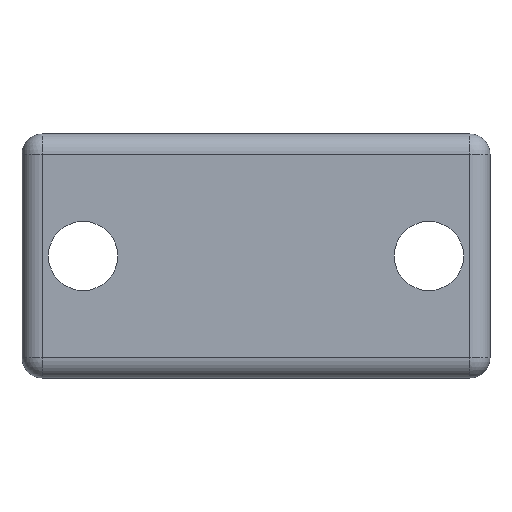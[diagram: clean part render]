
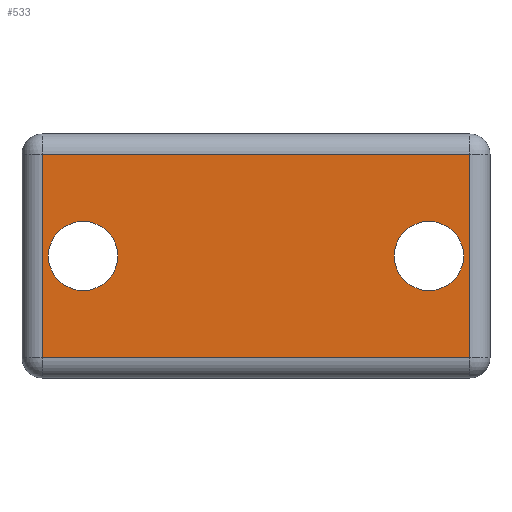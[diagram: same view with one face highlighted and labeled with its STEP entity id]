
A CAD part, front view. The second image highlights one B-rep face of the part: STEP entity #533.
In plain terms, the highlighted planar face has unit normal (0, -1, 0).
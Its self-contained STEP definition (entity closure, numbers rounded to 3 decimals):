
#44 = CYLINDRICAL_SURFACE('',#45,1.);
#45 = AXIS2_PLACEMENT_3D('',#46,#47,#48);
#46 = CARTESIAN_POINT('',(-10.5,7.,-6.));
#47 = DIRECTION('',(0.,0.,1.));
#48 = DIRECTION('',(-1.,-0.,0.));
#143 = VERTEX_POINT('',#144);
#144 = CARTESIAN_POINT('',(-10.5,6.,-5.));
#171 = EDGE_CURVE('',#143,#172,#174,.T.);
#172 = VERTEX_POINT('',#173);
#173 = CARTESIAN_POINT('',(-10.5,6.,5.));
#174 = SURFACE_CURVE('',#175,(#179,#186),.PCURVE_S1.);
#175 = LINE('',#176,#177);
#176 = CARTESIAN_POINT('',(-10.5,6.,-6.));
#177 = VECTOR('',#178,1.);
#178 = DIRECTION('',(0.,0.,1.));
#179 = PCURVE('',#44,#180);
#180 = DEFINITIONAL_REPRESENTATION('',(#181),#185);
#181 = LINE('',#182,#183);
#182 = CARTESIAN_POINT('',(1.571,0.));
#183 = VECTOR('',#184,1.);
#184 = DIRECTION('',(0.,1.));
#185 = ( GEOMETRIC_REPRESENTATION_CONTEXT(2) 
PARAMETRIC_REPRESENTATION_CONTEXT() REPRESENTATION_CONTEXT('2D SPACE',''
  ) );
#186 = PCURVE('',#187,#192);
#187 = PLANE('',#188);
#188 = AXIS2_PLACEMENT_3D('',#189,#190,#191);
#189 = CARTESIAN_POINT('',(-11.5,6.,-6.));
#190 = DIRECTION('',(0.,1.,0.));
#191 = DIRECTION('',(0.,0.,1.));
#192 = DEFINITIONAL_REPRESENTATION('',(#193),#197);
#193 = LINE('',#194,#195);
#194 = CARTESIAN_POINT('',(0.,1.));
#195 = VECTOR('',#196,1.);
#196 = DIRECTION('',(1.,0.));
#197 = ( GEOMETRIC_REPRESENTATION_CONTEXT(2) 
PARAMETRIC_REPRESENTATION_CONTEXT() REPRESENTATION_CONTEXT('2D SPACE',''
  ) );
#489 = CYLINDRICAL_SURFACE('',#490,1.);
#490 = AXIS2_PLACEMENT_3D('',#491,#492,#493);
#491 = CARTESIAN_POINT('',(-11.5,7.,-5.));
#492 = DIRECTION('',(1.,0.,0.));
#493 = DIRECTION('',(0.,-1.,0.));
#521 = CYLINDRICAL_SURFACE('',#522,1.);
#522 = AXIS2_PLACEMENT_3D('',#523,#524,#525);
#523 = CARTESIAN_POINT('',(-11.5,7.,5.));
#524 = DIRECTION('',(1.,0.,0.));
#525 = DIRECTION('',(0.,-1.,0.));
#533 = ADVANCED_FACE('',(#534,#609,#640),#187,.F.);
#534 = FACE_BOUND('',#535,.F.);
#535 = EDGE_LOOP('',(#536,#537,#560,#588));
#536 = ORIENTED_EDGE('',*,*,#171,.T.);
#537 = ORIENTED_EDGE('',*,*,#538,.T.);
#538 = EDGE_CURVE('',#172,#539,#541,.T.);
#539 = VERTEX_POINT('',#540);
#540 = CARTESIAN_POINT('',(10.5,6.,5.));
#541 = SURFACE_CURVE('',#542,(#546,#553),.PCURVE_S1.);
#542 = LINE('',#543,#544);
#543 = CARTESIAN_POINT('',(-11.5,6.,5.));
#544 = VECTOR('',#545,1.);
#545 = DIRECTION('',(1.,0.,0.));
#546 = PCURVE('',#187,#547);
#547 = DEFINITIONAL_REPRESENTATION('',(#548),#552);
#548 = LINE('',#549,#550);
#549 = CARTESIAN_POINT('',(11.,0.));
#550 = VECTOR('',#551,1.);
#551 = DIRECTION('',(0.,1.));
#552 = ( GEOMETRIC_REPRESENTATION_CONTEXT(2) 
PARAMETRIC_REPRESENTATION_CONTEXT() REPRESENTATION_CONTEXT('2D SPACE',''
  ) );
#553 = PCURVE('',#521,#554);
#554 = DEFINITIONAL_REPRESENTATION('',(#555),#559);
#555 = LINE('',#556,#557);
#556 = CARTESIAN_POINT('',(-0.,0.));
#557 = VECTOR('',#558,1.);
#558 = DIRECTION('',(-0.,1.));
#559 = ( GEOMETRIC_REPRESENTATION_CONTEXT(2) 
PARAMETRIC_REPRESENTATION_CONTEXT() REPRESENTATION_CONTEXT('2D SPACE',''
  ) );
#560 = ORIENTED_EDGE('',*,*,#561,.F.);
#561 = EDGE_CURVE('',#562,#539,#564,.T.);
#562 = VERTEX_POINT('',#563);
#563 = CARTESIAN_POINT('',(10.5,6.,-5.));
#564 = SURFACE_CURVE('',#565,(#569,#576),.PCURVE_S1.);
#565 = LINE('',#566,#567);
#566 = CARTESIAN_POINT('',(10.5,6.,-6.));
#567 = VECTOR('',#568,1.);
#568 = DIRECTION('',(0.,0.,1.));
#569 = PCURVE('',#187,#570);
#570 = DEFINITIONAL_REPRESENTATION('',(#571),#575);
#571 = LINE('',#572,#573);
#572 = CARTESIAN_POINT('',(0.,22.));
#573 = VECTOR('',#574,1.);
#574 = DIRECTION('',(1.,0.));
#575 = ( GEOMETRIC_REPRESENTATION_CONTEXT(2) 
PARAMETRIC_REPRESENTATION_CONTEXT() REPRESENTATION_CONTEXT('2D SPACE',''
  ) );
#576 = PCURVE('',#577,#582);
#577 = CYLINDRICAL_SURFACE('',#578,1.);
#578 = AXIS2_PLACEMENT_3D('',#579,#580,#581);
#579 = CARTESIAN_POINT('',(10.5,7.,-6.));
#580 = DIRECTION('',(0.,0.,1.));
#581 = DIRECTION('',(1.,0.,-0.));
#582 = DEFINITIONAL_REPRESENTATION('',(#583),#587);
#583 = LINE('',#584,#585);
#584 = CARTESIAN_POINT('',(-1.571,0.));
#585 = VECTOR('',#586,1.);
#586 = DIRECTION('',(-0.,1.));
#587 = ( GEOMETRIC_REPRESENTATION_CONTEXT(2) 
PARAMETRIC_REPRESENTATION_CONTEXT() REPRESENTATION_CONTEXT('2D SPACE',''
  ) );
#588 = ORIENTED_EDGE('',*,*,#589,.F.);
#589 = EDGE_CURVE('',#143,#562,#590,.T.);
#590 = SURFACE_CURVE('',#591,(#595,#602),.PCURVE_S1.);
#591 = LINE('',#592,#593);
#592 = CARTESIAN_POINT('',(-11.5,6.,-5.));
#593 = VECTOR('',#594,1.);
#594 = DIRECTION('',(1.,0.,0.));
#595 = PCURVE('',#187,#596);
#596 = DEFINITIONAL_REPRESENTATION('',(#597),#601);
#597 = LINE('',#598,#599);
#598 = CARTESIAN_POINT('',(1.,0.));
#599 = VECTOR('',#600,1.);
#600 = DIRECTION('',(0.,1.));
#601 = ( GEOMETRIC_REPRESENTATION_CONTEXT(2) 
PARAMETRIC_REPRESENTATION_CONTEXT() REPRESENTATION_CONTEXT('2D SPACE',''
  ) );
#602 = PCURVE('',#489,#603);
#603 = DEFINITIONAL_REPRESENTATION('',(#604),#608);
#604 = LINE('',#605,#606);
#605 = CARTESIAN_POINT('',(0.,0.));
#606 = VECTOR('',#607,1.);
#607 = DIRECTION('',(0.,1.));
#608 = ( GEOMETRIC_REPRESENTATION_CONTEXT(2) 
PARAMETRIC_REPRESENTATION_CONTEXT() REPRESENTATION_CONTEXT('2D SPACE',''
  ) );
#609 = FACE_BOUND('',#610,.F.);
#610 = EDGE_LOOP('',(#611));
#611 = ORIENTED_EDGE('',*,*,#612,.F.);
#612 = EDGE_CURVE('',#613,#613,#615,.T.);
#613 = VERTEX_POINT('',#614);
#614 = CARTESIAN_POINT('',(-8.5,6.,1.7));
#615 = SURFACE_CURVE('',#616,(#621,#628),.PCURVE_S1.);
#616 = CIRCLE('',#617,1.7);
#617 = AXIS2_PLACEMENT_3D('',#618,#619,#620);
#618 = CARTESIAN_POINT('',(-8.5,6.,0.));
#619 = DIRECTION('',(0.,1.,0.));
#620 = DIRECTION('',(0.,-0.,1.));
#621 = PCURVE('',#187,#622);
#622 = DEFINITIONAL_REPRESENTATION('',(#623),#627);
#623 = CIRCLE('',#624,1.7);
#624 = AXIS2_PLACEMENT_2D('',#625,#626);
#625 = CARTESIAN_POINT('',(6.,3.));
#626 = DIRECTION('',(1.,0.));
#627 = ( GEOMETRIC_REPRESENTATION_CONTEXT(2) 
PARAMETRIC_REPRESENTATION_CONTEXT() REPRESENTATION_CONTEXT('2D SPACE',''
  ) );
#628 = PCURVE('',#629,#634);
#629 = CYLINDRICAL_SURFACE('',#630,1.7);
#630 = AXIS2_PLACEMENT_3D('',#631,#632,#633);
#631 = CARTESIAN_POINT('',(-8.5,4.,0.));
#632 = DIRECTION('',(0.,1.,0.));
#633 = DIRECTION('',(0.,-0.,1.));
#634 = DEFINITIONAL_REPRESENTATION('',(#635),#639);
#635 = LINE('',#636,#637);
#636 = CARTESIAN_POINT('',(0.,2.));
#637 = VECTOR('',#638,1.);
#638 = DIRECTION('',(1.,0.));
#639 = ( GEOMETRIC_REPRESENTATION_CONTEXT(2) 
PARAMETRIC_REPRESENTATION_CONTEXT() REPRESENTATION_CONTEXT('2D SPACE',''
  ) );
#640 = FACE_BOUND('',#641,.F.);
#641 = EDGE_LOOP('',(#642));
#642 = ORIENTED_EDGE('',*,*,#643,.F.);
#643 = EDGE_CURVE('',#644,#644,#646,.T.);
#644 = VERTEX_POINT('',#645);
#645 = CARTESIAN_POINT('',(8.5,6.,1.7));
#646 = SURFACE_CURVE('',#647,(#652,#659),.PCURVE_S1.);
#647 = CIRCLE('',#648,1.7);
#648 = AXIS2_PLACEMENT_3D('',#649,#650,#651);
#649 = CARTESIAN_POINT('',(8.5,6.,0.));
#650 = DIRECTION('',(0.,1.,0.));
#651 = DIRECTION('',(0.,-0.,1.));
#652 = PCURVE('',#187,#653);
#653 = DEFINITIONAL_REPRESENTATION('',(#654),#658);
#654 = CIRCLE('',#655,1.7);
#655 = AXIS2_PLACEMENT_2D('',#656,#657);
#656 = CARTESIAN_POINT('',(6.,20.));
#657 = DIRECTION('',(1.,0.));
#658 = ( GEOMETRIC_REPRESENTATION_CONTEXT(2) 
PARAMETRIC_REPRESENTATION_CONTEXT() REPRESENTATION_CONTEXT('2D SPACE',''
  ) );
#659 = PCURVE('',#660,#665);
#660 = CYLINDRICAL_SURFACE('',#661,1.7);
#661 = AXIS2_PLACEMENT_3D('',#662,#663,#664);
#662 = CARTESIAN_POINT('',(8.5,4.,0.));
#663 = DIRECTION('',(0.,1.,0.));
#664 = DIRECTION('',(0.,-0.,1.));
#665 = DEFINITIONAL_REPRESENTATION('',(#666),#670);
#666 = LINE('',#667,#668);
#667 = CARTESIAN_POINT('',(0.,2.));
#668 = VECTOR('',#669,1.);
#669 = DIRECTION('',(1.,0.));
#670 = ( GEOMETRIC_REPRESENTATION_CONTEXT(2) 
PARAMETRIC_REPRESENTATION_CONTEXT() REPRESENTATION_CONTEXT('2D SPACE',''
  ) );
